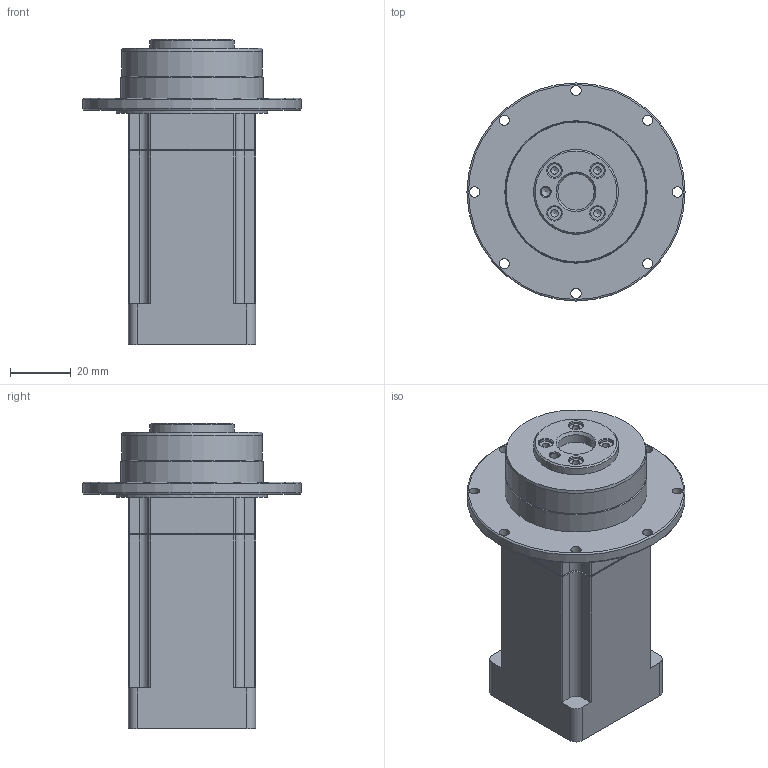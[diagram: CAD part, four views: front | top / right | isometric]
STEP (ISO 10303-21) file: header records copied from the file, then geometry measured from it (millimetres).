
FILE_DESCRIPTION((''),'2;1');
FILE_NAME('D:\유성\유성\도면\3D\2. 홈페이지용 3D 도면 (ipt)\외부도\SPIFH042\SPIFH042 SERIES (2 STAGE)_Shrinkwrap_1.stp','2014-05-08T14:06:08',('nagyu'),(''),'Autodesk Inventor 2013','Autodesk Inventor 2013','');
FILE_SCHEMA(('AUTOMOTIVE_DESIGN { 1 0 10303 214 1 1 1 1 }'));
Length unit declared in the file: millimetre
Products named in the file (1): SPIFH042 SERIES (2 STAGE)_Shrinkwrap_1
Bounding box: 72 x 72 x 100.9 mm (x, y, z)
Volume: 163643.3 mm3; surface area: 28621.2 mm2
Topology: 1 solids, 1 shells, 171 faces, 426 edges, 268 vertices
Faces by surface type: plane 73, cylinder 55, cone 41, torus 2
Full cylindrical faces by diameter (mm): 2.459 x4, 3 x1, 3.242 x4, 3.4 x8, 4.5 x4, 5 x1, 6 x1, 8 x1, 12 x1, 14.5 x1, 28 x1, 29.5 x1, 30 x1, 46.5 x1, 47 x1, 50 x1, 72 x1
Entity records: 4732 total; most frequent: CARTESIAN_POINT 881, DIRECTION 828, ORIENTED_EDGE 700, EDGE_CURVE 350, AXIS2_PLACEMENT_3D 335, EDGE_LOOP 260, VERTEX_POINT 250, FACE_OUTER_BOUND 171
